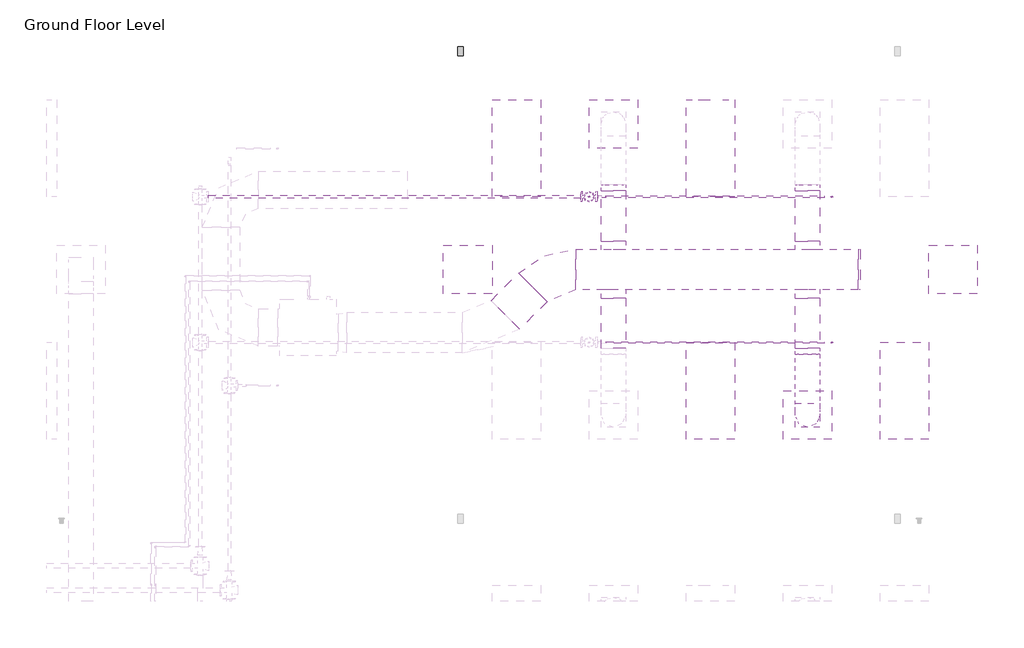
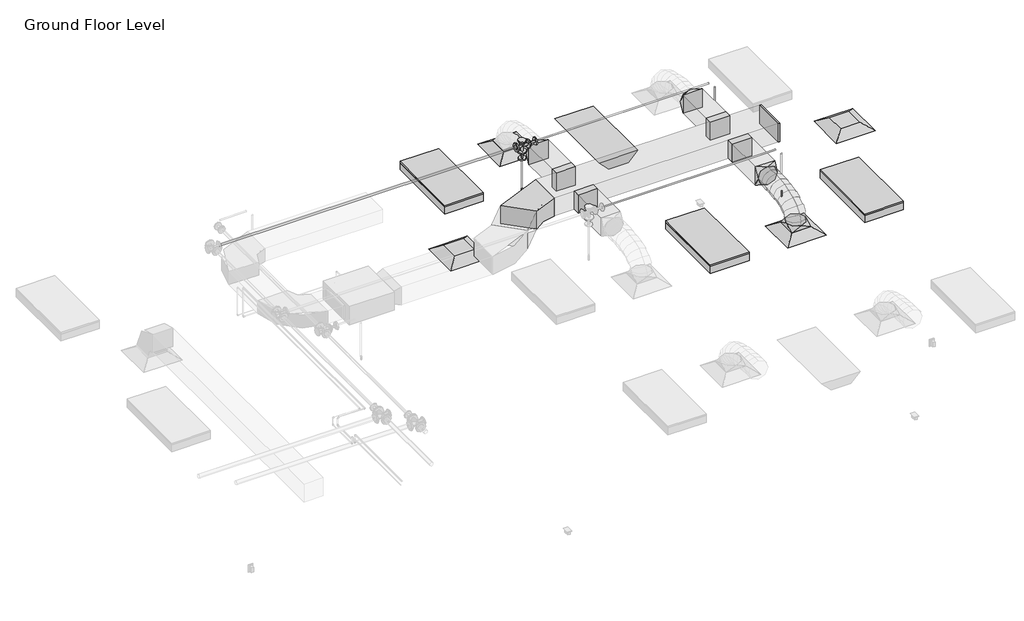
# One storey, part 73 of 74: 10 duct fittings, 7 duct segments, 6 pipe segments, 4 air terminals, 4 light fixtures, 3 fire suppression terminals, 3 pipe fittings, 1 proxy.
"""IFC4 building model written with IfcOpenShell, lengths in millimetres."""

from ifc_helpers import new_model, si_unit, point, frame, frame_2d, origin, place, context, project, spatial, polyline, circle_curve, ellipse_curve, trimmed, segment, composite_curve, outline, extrude, transform, mapped, element, save
from ifc_brep_helpers import plane_surface, cylinder_surface, advanced_brep
from components import m_return_diffuser_600_x_600_face_300_x_300_connection_ff221211, m_duplex_receptacle_standard_10251bba, m_rectangular_elbow_radius_1_5_w_acc56c25, m_rectangular_endcap_standard_72d4d00d, m_rectangular_takeoff_standard_cb0ccb98, m_rectangular_takeoff_standard_2be5eba1, m_rectangular_to_round_transition_angle_45_degree_641efff0, m_sprinkler_dry_pendent_hosted_15_mm_dry_pendent_9bda8e11, m_emergency_recessed_lighting_fixture_600x1200_277_5b10b25d, m_troffer_light_parabolic_rectangular1_0600x1200mm_4_lamp_86473d4a, m_reducer_flanged_cs_class_150_standard_ccf252ad, m_tee_round_base_flanged_cs_class_150_standard_7e5987a1

model = new_model("IFC4")

# Units and contexts
model_context = context("Model", 3, world=origin())
ifc_project = project(units=[si_unit("LENGTHUNIT", "METRE", prefix="MILLI")], contexts=[model_context])

# Site, building, storey
site = spatial("IfcSite", under=ifc_project)
building = spatial("IfcBuilding", under=site)
storey = spatial("IfcBuildingStorey", under=building, Name="Ground Floor Level", Elevation=900.0)

# Air terminals
placement = place(None, origin())
m_return_diffuser_600_x_600_face_300_x_300_connection_shape = m_return_diffuser_600_x_600_face_300_x_300_connection_ff221211(model_context)
element("IfcAirTerminal", 1, ObjectType="M_Return Diffuser : 600 x 600 Face 300 x 300 Connection", at=placement, inside=storey, context=model_context, shape_type="MappedRepresentation", body=[
    mapped(m_return_diffuser_600_x_600_face_300_x_300_connection_shape, transform((8942.7672395, 18735.2153534, 3650.0), x_axis=(1.0, 0.0, 0.0), y_axis=(0.0, 1.0, 0.0), z_axis=(0.0, 0.0, 1.0))),
])
element("IfcAirTerminal", 2, ObjectType="M_Return Diffuser : 600 x 600 Face 300 x 300 Connection", at=placement, inside=storey, context=model_context, shape_type="MappedRepresentation", body=[
    mapped(m_return_diffuser_600_x_600_face_300_x_300_connection_shape, transform((14942.7672395, 18735.2153534, 3650.0), x_axis=(1.0, 0.0, 0.0), y_axis=(0.0, 1.0, 0.0), z_axis=(0.0, 0.0, 1.0))),
])
element("IfcAirTerminal", 3, ObjectType="M_Supply Diffuser : 600 x 600 Face 300 x 300 Connection", at=placement, inside=storey, context=model_context, shape_type="MappedRepresentation", body=[
    mapped(m_return_diffuser_600_x_600_face_300_x_300_connection_shape, transform((10742.7672395, 20535.2153534, 3650.0), x_axis=(1.0, 0.0, 0.0), y_axis=(0.0, 1.0, 0.0), z_axis=(0.0, 0.0, 1.0))),
])
element("IfcAirTerminal", 4, ObjectType="M_Supply Diffuser : 600 x 600 Face 300 x 300 Connection", at=placement, inside=storey, context=model_context, shape_type="MappedRepresentation", body=[
    mapped(m_return_diffuser_600_x_600_face_300_x_300_connection_shape, transform((13142.7672395, 16935.2153534, 3650.0), x_axis=(1.0, 0.0, 0.0), y_axis=(0.0, 1.0, 0.0), z_axis=(0.0, 0.0, 1.0))),
])

# Proxy
m_duplex_receptacle_standard_shape = m_duplex_receptacle_standard_10251bba(model_context)
element("IfcBuildingElementProxy", 5, Name="M_Duplex Receptacle : Standard", ObjectType="M_Duplex Receptacle : Standard", at=placement, inside=storey, context=model_context, shape_type="MappedRepresentation", body=[
    mapped(m_duplex_receptacle_standard_shape, transform((8852.7672395, 21435.2153534, 1000.0), x_axis=(-1.0, 0.0, 0.0), y_axis=(0.0, -1.0, 0.0), z_axis=(0.0, 0.0, 1.0))),
])

# Duct fittings
m_rectangular_elbow_radius_1_5_w_shape = m_rectangular_elbow_radius_1_5_w_acc56c25(model_context)
element("IfcDuctFitting", 6, ObjectType="M_Rectangular Elbow - Radius : 1.5 W", at=placement, inside=storey, context=model_context, shape_type="MappedRepresentation", body=[
    mapped(m_rectangular_elbow_radius_1_5_w_shape, transform((9966.7301365, 18735.2153534, 4100.0), x_axis=(-1.0, 0.0, 0.0), y_axis=(0.0, -0.9999999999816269, 6.061864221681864e-06), z_axis=(0.0, 6.061864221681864e-06, 0.9999999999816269))),
])
m_rectangular_endcap_standard_shape = m_rectangular_endcap_standard_72d4d00d(model_context)
element("IfcDuctFitting", 7, ObjectType="M_Rectangular Endcap : Standard", at=placement, inside=storey, context=model_context, shape_type="MappedRepresentation", body=[
    mapped(m_rectangular_endcap_standard_shape, transform((13766.7301365, 18735.2153534, 4100.0), x_axis=(1.0, 0.0, 0.0), y_axis=(0.0, 1.0, 0.0), z_axis=(0.0, 0.0, 1.0))),
])
m_rectangular_takeoff_standard_shape = m_rectangular_takeoff_standard_cb0ccb98(model_context)
element("IfcDuctFitting", 8, ObjectType="M_Rectangular Takeoff : Standard", at=placement, inside=storey, context=model_context, shape_type="MappedRepresentation", body=[
    mapped(m_rectangular_takeoff_standard_shape, transform((10742.7672395, 18985.2153534, 4100.0), x_axis=(0.0, 1.0, 0.0), y_axis=(1.0, 0.0, 0.0), z_axis=(0.0, 0.0, -1.0))),
])
element("IfcDuctFitting", 9, ObjectType="M_Rectangular Takeoff : Standard", at=placement, inside=storey, context=model_context, shape_type="MappedRepresentation", body=[
    mapped(m_rectangular_takeoff_standard_shape, transform((13142.7672395, 18985.2153534, 4100.0), x_axis=(0.0, 1.0, 0.0), y_axis=(1.0, 0.0, 0.0), z_axis=(0.0, 0.0, -1.0))),
])
m_rectangular_takeoff_standard_2_shape = m_rectangular_takeoff_standard_2be5eba1(model_context)
element("IfcDuctFitting", 10, ObjectType="M_Rectangular Takeoff : Standard", at=placement, inside=storey, context=model_context, shape_type="MappedRepresentation", body=[
    mapped(m_rectangular_takeoff_standard_2_shape, transform((13142.7672395, 18485.2153534, 4100.0), x_axis=(0.0, -1.0, 0.0), y_axis=(-1.0, 0.0, 0.0), z_axis=(0.0, 0.0, -1.0))),
])
element("IfcDuctFitting", 11, ObjectType="M_Rectangular Takeoff : Standard", at=placement, inside=storey, context=model_context, shape_type="MappedRepresentation", body=[
    mapped(m_rectangular_takeoff_standard_2_shape, transform((10742.7672395, 18485.2153534, 4100.0), x_axis=(0.0, -1.0, 0.0), y_axis=(-1.0, 0.0, 0.0), z_axis=(0.0, 0.0, -1.0))),
])
m_rectangular_to_round_transition_angle_45_degree_shape = m_rectangular_to_round_transition_angle_45_degree_641efff0(model_context)
element("IfcDuctFitting", 12, ObjectType="M_Rectangular to Round Transition - Angle : 45 Degree", at=placement, inside=storey, context=model_context, shape_type="MappedRepresentation", body=[
    mapped(m_rectangular_to_round_transition_angle_45_degree_shape, transform((10742.7672395, 19707.8794221, 4100.0), x_axis=(0.0, 1.0, 0.0), y_axis=(-1.0, 0.0, 0.0), z_axis=(0.0, 0.0, 1.0))),
])
element("IfcDuctFitting", 13, ObjectType="M_Rectangular to Round Transition - Angle : 45 Degree", at=placement, inside=storey, context=model_context, shape_type="MappedRepresentation", body=[
    mapped(m_rectangular_to_round_transition_angle_45_degree_shape, transform((13142.7672395, 19707.8794221, 4100.0), x_axis=(0.0, 1.0, 0.0), y_axis=(-1.0, 0.0, 0.0), z_axis=(0.0, 0.0, 1.0))),
])
element("IfcDuctFitting", 14, ObjectType="M_Rectangular to Round Transition - Angle : 45 Degree", at=placement, inside=storey, context=model_context, shape_type="MappedRepresentation", body=[
    mapped(m_rectangular_to_round_transition_angle_45_degree_shape, transform((13142.7672395, 16935.2153534, 3751.6), x_axis=(0.0, 0.0, 1.0), y_axis=(-1.0, 0.0, 0.0), z_axis=(0.0, -1.0, 0.0))),
])
element("IfcDuctFitting", 15, ObjectType="M_Rectangular to Round Transition - Angle : 45 Degree", at=placement, inside=storey, context=model_context, shape_type="MappedRepresentation", body=[
    mapped(m_rectangular_to_round_transition_angle_45_degree_shape, transform((13142.7672395, 17762.5512847, 4100.0), x_axis=(0.0, -1.0, 0.0), y_axis=(1.0, 0.0, 0.0), z_axis=(0.0, 0.0, 1.0))),
])

# Duct segments
element("IfcDuctSegment", 16, ObjectType="Flex - Round", at=placement, inside=storey, context=model_context, shape_type="AdvancedBrep", body=[
    advanced_brep(
    [(13292.7672395, 16935.2153534, 3826.6), (13142.7672395, 16785.2153534, 3826.6), (12992.7672395, 16935.2153534, 3826.6), (13142.7672395, 17085.2153534, 3826.6), (13292.7672395, 16935.2153534, 3857.9377114), (13142.7672395, 16785.2153534, 3883.5809337), (12992.7672395, 16935.2153534, 3857.9377114), (13142.7672395, 17085.2153534, 3832.2944892), (13292.7672395, 16952.2312859, 3906.2505728), (13142.7672395, 16818.493307, 3978.0660967), (12992.7672395, 16952.2312859, 3906.2505728), (13142.7672395, 17085.9692649, 3834.435049), (13292.7672395, 16999.4151663, 3968.7113131), (13142.7672395, 16895.209267, 4079.6206026), (12992.7672395, 16999.4151663, 3968.7113131), (13142.7672395, 17103.6210655, 3857.8020236), (13292.7672395, 17070.9711184, 4016.0700639), (13142.7672395, 17002.0370628, 4150.3237489), (12992.7672395, 17070.9711184, 4016.0700639), (13142.7672395, 17139.9051741, 3881.8163788), (13292.7672395, 17161.1032664, 4050.4146682), (13142.7672395, 17117.5425033, 4194.3367758), (12992.7672395, 17161.1032664, 4050.4146682), (13142.7672395, 17204.6640296, 3906.4925606), (13292.7672395, 17264.0157343, 4073.8329691), (13142.7672395, 17237.4548103, 4221.6234841), (12992.7672395, 17264.0157343, 4073.8329691), (13142.7672395, 17290.5766583, 3926.0424542), (13292.7672395, 17373.912646, 4088.4128097), (13142.7672395, 17358.7617437, 4237.7170733), (12992.7672395, 17373.912646, 4088.4128097), (13142.7672395, 17389.0635483, 3939.1085462), (13292.7672395, 17484.9981256, 4096.242033), (13142.7672395, 17477.4927975, 4246.085151), (12992.7672395, 17484.9981256, 4096.242033), (13142.7672395, 17492.5034538, 3946.398915), (13292.7672395, 17591.4762972, 4099.4084821), (13142.7672395, 17588.7848041, 4249.394754), (12992.7672395, 17591.4762972, 4099.4084821), (13142.7672395, 17594.1677903, 3949.4222102), (13292.7672395, 17687.5512847, 4100.0), (13142.7672395, 17688.4747925, 3950.0028429), (12992.7672395, 17687.5512847, 4100.0), (13142.7672395, 17686.6277768, 4249.9971571)],
    [
        (0, 1, circle_curve(frame((13142.7672395, 16935.2153534, 3826.6), z_axis=(0.0, 0.0, -1.0), x_axis=(1.0, 0.0, 0.0)), 150.0)),
        (1, 2, circle_curve(frame((13142.7672395, 16935.2153534, 3826.6), z_axis=(0.0, 0.0, -1.0), x_axis=(1.0, 0.0, 0.0)), 150.0)),
        (2, 3, circle_curve(frame((13142.7672395, 16935.2153534, 3826.6), z_axis=(0.0, 0.0, -1.0), x_axis=(1.0, 0.0, 0.0)), 150.0)),
        (3, 0, circle_curve(frame((13142.7672395, 16935.2153534, 3826.6), z_axis=(0.0, 0.0, -1.0), x_axis=(1.0, 0.0, 0.0)), 150.0)),
        (0, 4),
        (4, 5, ellipse_curve(frame((13142.7672395, 16935.2153534, 3857.9377114), z_axis=(0.0, -0.16851014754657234, -0.9856999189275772), x_axis=(0.0, 0.9856999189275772, -0.1685101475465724)), 152.176131, 150.0)),
        (5, 1),
        (5, 6, ellipse_curve(frame((13142.7672395, 16935.2153534, 3857.9377114), z_axis=(0.0, -0.16851014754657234, -0.9856999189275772), x_axis=(0.0, 0.9856999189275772, -0.1685101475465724)), 152.176131, 150.0)),
        (6, 2),
        (6, 7, ellipse_curve(frame((13142.7672395, 16935.2153534, 3857.9377114), z_axis=(0.0, -0.16851014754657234, -0.9856999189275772), x_axis=(0.0, 0.9856999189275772, -0.1685101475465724)), 152.176131, 150.0)),
        (7, 3),
        (7, 4, ellipse_curve(frame((13142.7672395, 16935.2153534, 3857.9377114), z_axis=(0.0, -0.16851014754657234, -0.9856999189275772), x_axis=(0.0, 0.9856999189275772, -0.1685101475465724)), 152.176131, 150.0)),
        (4, 8),
        (8, 9, ellipse_curve(frame((13142.7672395, 16952.2312859, 3906.2505728), z_axis=(0.0, -0.4730922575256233, -0.8810128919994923), x_axis=(0.0, 0.8810128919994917, -0.47309225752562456)), 151.8002519, 150.0)),
        (9, 5),
        (9, 10, ellipse_curve(frame((13142.7672395, 16952.2312859, 3906.2505728), z_axis=(0.0, -0.4730922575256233, -0.8810128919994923), x_axis=(0.0, 0.8810128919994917, -0.47309225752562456)), 151.8002519, 150.0)),
        (10, 6),
        (10, 11, ellipse_curve(frame((13142.7672395, 16952.2312859, 3906.2505728), z_axis=(0.0, -0.4730922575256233, -0.8810128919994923), x_axis=(0.0, 0.8810128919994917, -0.47309225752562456)), 151.8002519, 150.0)),
        (11, 7),
        (11, 8, ellipse_curve(frame((13142.7672395, 16952.2312859, 3906.2505728), z_axis=(0.0, -0.4730922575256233, -0.8810128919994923), x_axis=(0.0, 0.8810128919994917, -0.47309225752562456)), 151.8002519, 150.0)),
        (8, 12),
        (12, 13, ellipse_curve(frame((13142.7672395, 16999.4151663, 3968.7113131), z_axis=(0.0, -0.7287877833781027, -0.684739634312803), x_axis=(0.0, 0.6847396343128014, -0.7287877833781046)), 152.1832446, 150.0)),
        (13, 9),
        (13, 14, ellipse_curve(frame((13142.7672395, 16999.4151663, 3968.7113131), z_axis=(0.0, -0.7287877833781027, -0.684739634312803), x_axis=(0.0, 0.6847396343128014, -0.7287877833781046)), 152.1832446, 150.0)),
        (14, 10),
        (14, 15, ellipse_curve(frame((13142.7672395, 16999.4151663, 3968.7113131), z_axis=(0.0, -0.7287877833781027, -0.684739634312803), x_axis=(0.0, 0.6847396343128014, -0.7287877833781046)), 152.1832446, 150.0)),
        (15, 11),
        (15, 12, ellipse_curve(frame((13142.7672395, 16999.4151663, 3968.7113131), z_axis=(0.0, -0.7287877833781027, -0.684739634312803), x_axis=(0.0, 0.6847396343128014, -0.7287877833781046)), 152.1832446, 150.0)),
        (12, 16),
        (16, 17, ellipse_curve(frame((13142.7672395, 17070.9711184, 4016.0700639), z_axis=(0.0, -0.8895859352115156, -0.45676784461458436), x_axis=(0.0, 0.45676784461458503, -0.8895859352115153)), 150.91705, 150.0)),
        (17, 13),
        (17, 18, ellipse_curve(frame((13142.7672395, 17070.9711184, 4016.0700639), z_axis=(0.0, -0.8895859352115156, -0.45676784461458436), x_axis=(0.0, 0.45676784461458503, -0.8895859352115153)), 150.91705, 150.0)),
        (18, 14),
        (18, 19, ellipse_curve(frame((13142.7672395, 17070.9711184, 4016.0700639), z_axis=(0.0, -0.8895859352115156, -0.45676784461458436), x_axis=(0.0, 0.45676784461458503, -0.8895859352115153)), 150.91705, 150.0)),
        (19, 15),
        (19, 16, ellipse_curve(frame((13142.7672395, 17070.9711184, 4016.0700639), z_axis=(0.0, -0.8895859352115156, -0.45676784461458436), x_axis=(0.0, 0.45676784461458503, -0.8895859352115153)), 150.91705, 150.0)),
        (16, 20),
        (20, 21, ellipse_curve(frame((13142.7672395, 17161.1032664, 4050.4146682), z_axis=(0.0, -0.9571203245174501, -0.2896906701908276), x_axis=(0.0, 0.28969067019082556, -0.9571203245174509)), 150.369921, 150.0)),
        (21, 17),
        (21, 22, ellipse_curve(frame((13142.7672395, 17161.1032664, 4050.4146682), z_axis=(0.0, -0.9571203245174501, -0.2896906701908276), x_axis=(0.0, 0.28969067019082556, -0.9571203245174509)), 150.369921, 150.0)),
        (22, 18),
        (22, 23, ellipse_curve(frame((13142.7672395, 17161.1032664, 4050.4146682), z_axis=(0.0, -0.9571203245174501, -0.2896906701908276), x_axis=(0.0, 0.28969067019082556, -0.9571203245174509)), 150.369921, 150.0)),
        (23, 19),
        (23, 20, ellipse_curve(frame((13142.7672395, 17161.1032664, 4050.4146682), z_axis=(0.0, -0.9571203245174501, -0.2896906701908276), x_axis=(0.0, 0.28969067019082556, -0.9571203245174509)), 150.369921, 150.0)),
        (20, 24),
        (24, 25, ellipse_curve(frame((13142.7672395, 17264.0157343, 4073.8329691), z_axis=(0.0, -0.9842313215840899, -0.176886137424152), x_axis=(0.0, 0.17688613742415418, -0.9842313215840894)), 150.1583131, 150.0)),
        (25, 21),
        (25, 26, ellipse_curve(frame((13142.7672395, 17264.0157343, 4073.8329691), z_axis=(0.0, -0.9842313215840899, -0.176886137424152), x_axis=(0.0, 0.17688613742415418, -0.9842313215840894)), 150.1583131, 150.0)),
        (26, 22),
        (26, 27, ellipse_curve(frame((13142.7672395, 17264.0157343, 4073.8329691), z_axis=(0.0, -0.9842313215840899, -0.176886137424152), x_axis=(0.0, 0.17688613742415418, -0.9842313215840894)), 150.1583131, 150.0)),
        (27, 23),
        (27, 24, ellipse_curve(frame((13142.7672395, 17264.0157343, 4073.8329691), z_axis=(0.0, -0.9842313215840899, -0.176886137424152), x_axis=(0.0, 0.17688613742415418, -0.9842313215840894)), 150.1583131, 150.0)),
        (24, 28),
        (28, 29, ellipse_curve(frame((13142.7672395, 17373.912646, 4088.4128097), z_axis=(0.0, -0.9948906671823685, -0.10095821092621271), x_axis=(0.0, 0.10095821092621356, -0.9948906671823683)), 150.0710264, 150.0)),
        (29, 25),
        (29, 30, ellipse_curve(frame((13142.7672395, 17373.912646, 4088.4128097), z_axis=(0.0, -0.9948906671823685, -0.10095821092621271), x_axis=(0.0, 0.10095821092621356, -0.9948906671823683)), 150.0710264, 150.0)),
        (30, 26),
        (30, 31, ellipse_curve(frame((13142.7672395, 17373.912646, 4088.4128097), z_axis=(0.0, -0.9948906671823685, -0.10095821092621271), x_axis=(0.0, 0.10095821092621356, -0.9948906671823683)), 150.0710264, 150.0)),
        (31, 27),
        (31, 28, ellipse_curve(frame((13142.7672395, 17373.912646, 4088.4128097), z_axis=(0.0, -0.9948906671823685, -0.10095821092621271), x_axis=(0.0, 0.10095821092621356, -0.9948906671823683)), 150.0710264, 150.0)),
        (28, 32),
        (32, 33, ellipse_curve(frame((13142.7672395, 17484.9981256, 4096.242033), z_axis=(0.0, -0.9987479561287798, -0.050025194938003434), x_axis=(0.0, 0.05002519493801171, -0.9987479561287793)), 150.0309634, 150.0)),
        (33, 29),
        (33, 34, ellipse_curve(frame((13142.7672395, 17484.9981256, 4096.242033), z_axis=(0.0, -0.9987479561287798, -0.050025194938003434), x_axis=(0.0, 0.05002519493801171, -0.9987479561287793)), 150.0309634, 150.0)),
        (34, 30),
        (34, 35, ellipse_curve(frame((13142.7672395, 17484.9981256, 4096.242033), z_axis=(0.0, -0.9987479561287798, -0.050025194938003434), x_axis=(0.0, 0.05002519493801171, -0.9987479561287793)), 150.0309634, 150.0)),
        (35, 31),
        (35, 32, ellipse_curve(frame((13142.7672395, 17484.9981256, 4096.242033), z_axis=(0.0, -0.9987479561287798, -0.050025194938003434), x_axis=(0.0, 0.05002519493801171, -0.9987479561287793)), 150.0309634, 150.0)),
        (32, 36),
        (36, 37, ellipse_curve(frame((13142.7672395, 17591.4762972, 4099.4084821), z_axis=(0.0, -0.9998390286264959, -0.01794204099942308), x_axis=(0.0, 0.017942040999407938, -0.9998390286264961)), 150.0104193, 150.0)),
        (37, 33),
        (37, 38, ellipse_curve(frame((13142.7672395, 17591.4762972, 4099.4084821), z_axis=(0.0, -0.9998390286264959, -0.01794204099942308), x_axis=(0.0, 0.017942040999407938, -0.9998390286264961)), 150.0104193, 150.0)),
        (38, 34),
        (38, 39, ellipse_curve(frame((13142.7672395, 17591.4762972, 4099.4084821), z_axis=(0.0, -0.9998390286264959, -0.01794204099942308), x_axis=(0.0, 0.017942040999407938, -0.9998390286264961)), 150.0104193, 150.0)),
        (39, 35),
        (39, 36, ellipse_curve(frame((13142.7672395, 17591.4762972, 4099.4084821), z_axis=(0.0, -0.9998390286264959, -0.01794204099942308), x_axis=(0.0, 0.017942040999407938, -0.9998390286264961)), 150.0104193, 150.0)),
        (40, 41, circle_curve(frame((13142.7672395, 17687.5512847, 4100.0), z_axis=(0.0, 0.9999810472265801, 0.006156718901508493), x_axis=(1.0, 0.0, 0.0)), 150.0)),
        (41, 42, circle_curve(frame((13142.7672395, 17687.5512847, 4100.0), z_axis=(0.0, 0.9999810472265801, 0.006156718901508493), x_axis=(1.0, 0.0, 0.0)), 150.0)),
        (42, 43, circle_curve(frame((13142.7672395, 17687.5512847, 4100.0), z_axis=(0.0, 0.9999810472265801, 0.006156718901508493), x_axis=(1.0, 0.0, 0.0)), 150.0)),
        (43, 40, circle_curve(frame((13142.7672395, 17687.5512847, 4100.0), z_axis=(0.0, 0.9999810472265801, 0.006156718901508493), x_axis=(1.0, 0.0, 0.0)), 150.0)),
        (36, 40),
        (43, 37),
        (42, 38),
        (41, 39),
    ],
    [
        plane_surface(frame((13142.7672395, 16785.2153534, 3826.6), z_axis=(0.0, 0.0, -1.0), x_axis=(1.0, 0.0, 0.0))),
        cylinder_surface(frame((13142.7672395, 16935.2153534, 3826.6), z_axis=(0.0, 0.0, -1.0), x_axis=(1.0, 0.0, 0.0)), 150.0),
        cylinder_surface(frame((13142.7672395, 16935.2153534, 3857.9377114), z_axis=(0.0, -0.3322008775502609, -0.9432086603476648), x_axis=(1.0, 0.0, 0.0)), 150.0),
        cylinder_surface(frame((13142.7672395, 16952.2312859, 3906.2505728), z_axis=(0.0, -0.6027625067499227, -0.7979206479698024), x_axis=(1.0, 0.0, 0.0)), 150.0),
        cylinder_surface(frame((13142.7672395, 16999.4151663, 3968.7113131), z_axis=(0.0, -0.8339024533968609, -0.5519118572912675), x_axis=(1.0, 0.0, 0.0)), 150.0),
        cylinder_surface(frame((13142.7672395, 17070.9711184, 4016.0700639), z_axis=(0.0, -0.9344582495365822, -0.35607271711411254), x_axis=(1.0, 0.0, 0.0)), 150.0),
        cylinder_surface(frame((13142.7672395, 17161.1032664, 4050.4146682), z_axis=(0.0, -0.9750732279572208, -0.22188330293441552), x_axis=(1.0, 0.0, 0.0)), 150.0),
        cylinder_surface(frame((13142.7672395, 17264.0157343, 4073.8329691), z_axis=(0.0, -0.9913140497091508, -0.13151598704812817), x_axis=(1.0, 0.0, 0.0)), 150.0),
        cylinder_surface(frame((13142.7672395, 17373.912646, 4088.4128097), z_axis=(0.0, -0.9975255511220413, -0.07030487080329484), x_axis=(1.0, 0.0, 0.0)), 150.0),
        cylinder_surface(frame((13142.7672395, 17484.9981256, 4096.242033), z_axis=(0.0, -0.9995581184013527, -0.029724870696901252), x_axis=(1.0, 0.0, 0.0)), 150.0),
        plane_surface(frame((13142.7672395, 17686.6277768, 4249.9971571), z_axis=(0.0, 0.9999810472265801, 0.0061567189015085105), x_axis=(1.0, 0.0, 0.0))),
        cylinder_surface(frame((13142.7672395, 17591.4762972, 4099.4084821), z_axis=(0.0, -0.9999810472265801, -0.006156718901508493), x_axis=(1.0, 0.0, 0.0)), 150.0),
    ],
    [
        (0, [[1, 2, 3, 4]]),
        (1, [[-1, 5, 6, 7]]),
        (1, [[-2, -7, 8, 9]]),
        (1, [[-3, -9, 10, 11]]),
        (1, [[-4, -11, 12, -5]]),
        (2, [[-6, 13, 14, 15]]),
        (2, [[-8, -15, 16, 17]]),
        (2, [[-10, -17, 18, 19]]),
        (2, [[-12, -19, 20, -13]]),
        (3, [[-14, 21, 22, 23]]),
        (3, [[-16, -23, 24, 25]]),
        (3, [[-18, -25, 26, 27]]),
        (3, [[-20, -27, 28, -21]]),
        (4, [[-22, 29, 30, 31]]),
        (4, [[-24, -31, 32, 33]]),
        (4, [[-26, -33, 34, 35]]),
        (4, [[-28, -35, 36, -29]]),
        (5, [[-30, 37, 38, 39]]),
        (5, [[-32, -39, 40, 41]]),
        (5, [[-34, -41, 42, 43]]),
        (5, [[-36, -43, 44, -37]]),
        (6, [[-38, 45, 46, 47]]),
        (6, [[-40, -47, 48, 49]]),
        (6, [[-42, -49, 50, 51]]),
        (6, [[-44, -51, 52, -45]]),
        (7, [[-46, 53, 54, 55]]),
        (7, [[-48, -55, 56, 57]]),
        (7, [[-50, -57, 58, 59]]),
        (7, [[-52, -59, 60, -53]]),
        (8, [[-54, 61, 62, 63]]),
        (8, [[-56, -63, 64, 65]]),
        (8, [[-58, -65, 66, 67]]),
        (8, [[-60, -67, 68, -61]]),
        (9, [[-62, 69, 70, 71]]),
        (9, [[-64, -71, 72, 73]]),
        (9, [[-66, -73, 74, 75]]),
        (9, [[-68, -75, 76, -69]]),
        (10, [[77, 78, 79, 80]]),
        (11, [[-70, 81, -80, 82]]),
        (11, [[-72, -82, -79, 83]]),
        (11, [[-74, -83, -78, 84]]),
        (11, [[-76, -84, -77, -81]]),
    ],
),
])
element("IfcDuctSegment", 17, ObjectType="Radius Elbows / Taps", at=placement, inside=storey, context=model_context, shape_type="SweptSolid", body=[
    extrude(outline(polyline([(9584.1393452, 17999.0711715), (9230.5859546, 18352.6245621), (9570.2835271, 18692.3221346), (9923.8369177, 18338.768744), (9584.1393452, 17999.0711715)])), frame((0.0, 0.0, 3950.0033908), z_axis=(0.0, 0.0, 1.0), x_axis=(1.0, 0.0, 0.0)), (0.0, 0.0, 1.0), 300.0),
])
element("IfcDuctSegment", 18, ObjectType="Radius Elbows / Taps", at=placement, inside=storey, context=model_context, shape_type="SweptSolid", body=[
    extrude(outline(polyline([(10277.3903083, 18485.2153534), (10277.3903083, 18985.2153534), (13766.7301365, 18985.2153534), (13766.7301365, 18485.2153534), (10277.3903083, 18485.2153534)])), frame((0.0, 0.0, 3950.0), z_axis=(0.0, 0.0, 1.0), x_axis=(1.0, 0.0, 0.0)), (0.0, 0.0, 1.0), 300.0),
])
element("IfcDuctSegment", 19, ObjectType="Radius Elbows / Taps", at=placement, inside=storey, context=model_context, shape_type="SweptSolid", body=[
    extrude(outline(polyline([(10892.7672395, 19086.8153534), (10592.7672395, 19086.8153534), (10592.7672395, 19707.8794221), (10892.7672395, 19707.8794221), (10892.7672395, 19086.8153534)])), frame((0.0, 0.0, 3950.0), z_axis=(0.0, 0.0, 1.0), x_axis=(1.0, 0.0, 0.0)), (0.0, 0.0, 1.0), 300.0),
])
element("IfcDuctSegment", 20, ObjectType="Radius Elbows / Taps", at=placement, inside=storey, context=model_context, shape_type="SweptSolid", body=[
    extrude(outline(polyline([(13292.7672395, 19086.8153534), (12992.7672395, 19086.8153534), (12992.7672395, 19707.8794221), (13292.7672395, 19707.8794221), (13292.7672395, 19086.8153534)])), frame((0.0, 0.0, 3950.0), z_axis=(0.0, 0.0, 1.0), x_axis=(1.0, 0.0, 0.0)), (0.0, 0.0, 1.0), 300.0),
])
element("IfcDuctSegment", 21, ObjectType="Radius Elbows / Taps", at=placement, inside=storey, context=model_context, shape_type="SweptSolid", body=[
    extrude(outline(polyline([(12992.7672395, 18383.6153534), (13292.7672395, 18383.6153534), (13292.7672395, 17762.5512847), (12992.7672395, 17762.5512847), (12992.7672395, 18383.6153534)])), frame((0.0, 0.0, 3950.0), z_axis=(0.0, 0.0, 1.0), x_axis=(1.0, 0.0, 0.0)), (0.0, 0.0, 1.0), 300.0),
])
element("IfcDuctSegment", 22, ObjectType="Radius Elbows / Taps", at=placement, inside=storey, context=model_context, shape_type="SweptSolid", body=[
    extrude(outline(polyline([(10592.7672395, 18383.6153534), (10892.7672395, 18383.6153534), (10892.7672395, 17762.5512847), (10592.7672395, 17762.5512847), (10592.7672395, 18383.6153534)])), frame((0.0, 0.0, 3950.0), z_axis=(0.0, 0.0, 1.0), x_axis=(1.0, 0.0, 0.0)), (0.0, 0.0, 1.0), 300.0),
])

# Fire suppression terminals
m_sprinkler_dry_pendent_hosted_15_mm_dry_pendent_shape = m_sprinkler_dry_pendent_hosted_15_mm_dry_pendent_9bda8e11(model_context)
element("IfcFireSuppressionTerminal", 23, ObjectType="M_Sprinkler - Dry - Pendent - Hosted : 15 mm Dry Pendent", at=placement, inside=storey, context=model_context, shape_type="MappedRepresentation", body=[
    mapped(m_sprinkler_dry_pendent_hosted_15_mm_dry_pendent_shape, transform((10442.7672395, 19635.2153534, 3650.0), x_axis=(1.0, 0.0, 0.0), y_axis=(0.0, -1.0, 0.0), z_axis=(0.0, 0.0, -1.0))),
])
element("IfcFireSuppressionTerminal", 24, ObjectType="M_Sprinkler - Dry - Pendent - Hosted : 15 mm Dry Pendent", at=placement, inside=storey, context=model_context, shape_type="MappedRepresentation", body=[
    mapped(m_sprinkler_dry_pendent_hosted_15_mm_dry_pendent_shape, transform((13442.7672395, 19635.2153534, 3650.0), x_axis=(1.0, 0.0, 0.0), y_axis=(0.0, -1.0, 0.0), z_axis=(0.0, 0.0, -1.0))),
])
element("IfcFireSuppressionTerminal", 25, ObjectType="M_Sprinkler - Dry - Pendent - Hosted : 15 mm Dry Pendent", at=placement, inside=storey, context=model_context, shape_type="MappedRepresentation", body=[
    mapped(m_sprinkler_dry_pendent_hosted_15_mm_dry_pendent_shape, transform((13442.7672395, 17835.2153534, 3650.0), x_axis=(1.0, 0.0, 0.0), y_axis=(0.0, -1.0, 0.0), z_axis=(0.0, 0.0, -1.0))),
])

# Light fixtures
m_emergency_recessed_lighting_fixture_600x1200_277_shape = m_emergency_recessed_lighting_fixture_600x1200_277_5b10b25d(model_context)
element("IfcLightFixture", 26, ObjectType="M_Emergency Recessed Lighting Fixture : 600x1200 - 277", at=placement, inside=storey, context=model_context, shape_type="MappedRepresentation", body=[
    mapped(m_emergency_recessed_lighting_fixture_600x1200_277_shape, transform((11642.7672395, 19635.2153534, 3650.0), x_axis=(0.0, 1.0, 0.0), y_axis=(-1.0, 0.0, 0.0), z_axis=(0.0, 0.0, 1.0))),
])
m_troffer_light_parabolic_rectangular1_0600x1200mm_4_lamp_shape = m_troffer_light_parabolic_rectangular1_0600x1200mm_4_lamp_86473d4a(model_context)
element("IfcLightFixture", 27, ObjectType="M_Troffer Light - Parabolic Rectangular1 : 0600x1200mm(4 Lamp) - 277V 2", at=placement, inside=storey, context=model_context, shape_type="MappedRepresentation", body=[
    mapped(m_troffer_light_parabolic_rectangular1_0600x1200mm_4_lamp_shape, transform((9483.3013074, 20253.918855, 3650.0), x_axis=(0.0, 1.0, 0.0), y_axis=(-1.0, 0.0, 0.0), z_axis=(0.0, 0.0, 1.0))),
])
element("IfcLightFixture", 28, ObjectType="M_Troffer Light - Parabolic Rectangular1 : 0600x1200mm(4 Lamp) - 277V 2", at=placement, inside=storey, context=model_context, shape_type="MappedRepresentation", body=[
    mapped(m_troffer_light_parabolic_rectangular1_0600x1200mm_4_lamp_shape, transform((11883.3013074, 17253.918855, 3650.0), x_axis=(0.0, 1.0, 0.0), y_axis=(-1.0, 0.0, 0.0), z_axis=(0.0, 0.0, 1.0))),
])
element("IfcLightFixture", 29, ObjectType="M_Troffer Light - Parabolic Rectangular1 : 0600x1200mm(4 Lamp) - 277V 2", at=placement, inside=storey, context=model_context, shape_type="MappedRepresentation", body=[
    mapped(m_troffer_light_parabolic_rectangular1_0600x1200mm_4_lamp_shape, transform((14283.3013074, 17253.918855, 3650.0), x_axis=(0.0, 1.0, 0.0), y_axis=(-1.0, 0.0, 0.0), z_axis=(0.0, 0.0, 1.0))),
])

# Pipe fittings
m_reducer_flanged_cs_class_150_standard_shape = m_reducer_flanged_cs_class_150_standard_ccf252ad(model_context)
element("IfcPipeFitting", 30, ObjectType="M_Reducer - Flanged - CS - Class 150 : Standard", at=placement, inside=storey, context=model_context, shape_type="MappedRepresentation", body=[
    mapped(m_reducer_flanged_cs_class_150_standard_shape, transform((10543.4758332, 19635.2153534, 4360.0), x_axis=(1.0, 0.0, 0.0), y_axis=(0.0, 0.0, 1.0), z_axis=(0.0, -1.0, 0.0))),
])
element("IfcPipeFitting", 31, ObjectType="M_Reducer - Flanged - CS - Class 150 : Standard", at=placement, inside=storey, context=model_context, shape_type="MappedRepresentation", body=[
    mapped(m_reducer_flanged_cs_class_150_standard_shape, transform((10442.7672395, 19635.2153534, 4259.2914062), x_axis=(0.0, 0.0, -1.0), y_axis=(-1.0, 0.0, 0.0), z_axis=(0.0, 1.0, 0.0))),
])
m_tee_round_base_flanged_cs_class_150_standard_shape = m_tee_round_base_flanged_cs_class_150_standard_7e5987a1(model_context)
element("IfcPipeFitting", 32, ObjectType="M_Tee Round Base - Flanged - CS - Class 150 : Standard", at=placement, inside=storey, context=model_context, shape_type="MappedRepresentation", body=[
    mapped(m_tee_round_base_flanged_cs_class_150_standard_shape, transform((10442.7672395, 19635.2153534, 4360.0), x_axis=(1.0, 0.0, 0.0), y_axis=(0.0, 0.0, 1.0), z_axis=(0.0, -1.0, 0.0))),
])

# Pipe segments
element("IfcPipeSegment", 33, ObjectType="Steel flanged", at=placement, inside=storey, context=model_context, shape_type="SweptSolid", body=[
    extrude(outline(composite_curve([segment(trimmed(circle_curve(frame_2d((13442.7672395, 19635.2153534)), 10.668), [point((13432.0992395, 19635.2153534))], [point((13442.7672395, 19645.8833534))], False, "CARTESIAN"), True, "CONTINUOUS"), segment(trimmed(circle_curve(frame_2d((13442.7672395, 19635.2153534)), 10.668), [point((13442.7672395, 19645.8833534))], [point((13453.4352395, 19635.2153534))], False, "CARTESIAN"), True, "CONTINUOUS"), segment(trimmed(circle_curve(frame_2d((13442.7672395, 19635.2153534)), 10.668), [point((13453.4352395, 19635.2153534))], [point((13442.7672395, 19624.5473534))], False, "CARTESIAN"), True, "CONTINUOUS"), segment(trimmed(circle_curve(frame_2d((13442.7672395, 19635.2153534)), 10.668), [point((13442.7672395, 19624.5473534))], [point((13432.0992395, 19635.2153534))], False, "CARTESIAN"), True, "CONTINUOUS")], self_intersect=False)), frame((0.0, 0.0, 3650.0), z_axis=(0.0, 0.0, 1.0), x_axis=(1.0, 0.0, 0.0)), (0.0, 0.0, 1.0), 616.9914062),
])
element("IfcPipeSegment", 34, ObjectType="Steel flanged", at=placement, inside=storey, context=model_context, shape_type="SweptSolid", body=[
    extrude(outline(composite_curve([segment(trimmed(circle_curve(frame_2d((13442.7672395, 17835.2153534)), 10.668), [point((13432.0992395, 17835.2153534))], [point((13442.7672395, 17845.8833534))], False, "CARTESIAN"), True, "CONTINUOUS"), segment(trimmed(circle_curve(frame_2d((13442.7672395, 17835.2153534)), 10.668), [point((13442.7672395, 17845.8833534))], [point((13453.4352395, 17835.2153534))], False, "CARTESIAN"), True, "CONTINUOUS"), segment(trimmed(circle_curve(frame_2d((13442.7672395, 17835.2153534)), 10.668), [point((13453.4352395, 17835.2153534))], [point((13442.7672395, 17824.5473534))], False, "CARTESIAN"), True, "CONTINUOUS"), segment(trimmed(circle_curve(frame_2d((13442.7672395, 17835.2153534)), 10.668), [point((13442.7672395, 17824.5473534))], [point((13432.0992395, 17835.2153534))], False, "CARTESIAN"), True, "CONTINUOUS")], self_intersect=False)), frame((0.0, 0.0, 3650.0), z_axis=(0.0, 0.0, 1.0), x_axis=(1.0, 0.0, 0.0)), (0.0, 0.0, 1.0), 616.9914062),
])
element("IfcPipeSegment", 35, ObjectType="Steel flanged", at=placement, inside=storey, context=model_context, shape_type="SweptSolid", body=[
    extrude(outline(composite_curve([segment(trimmed(circle_curve(frame_2d((17835.2153534, 4360.0)), 10.668), [point((17845.8833534, 4360.0))], [point((17835.2153534, 4349.332))], False, "CARTESIAN"), True, "CONTINUOUS"), segment(trimmed(circle_curve(frame_2d((17835.2153534, 4360.0)), 10.668), [point((17835.2153534, 4349.332))], [point((17824.5473534, 4360.0))], False, "CARTESIAN"), True, "CONTINUOUS"), segment(trimmed(circle_curve(frame_2d((17835.2153534, 4360.0)), 10.668), [point((17824.5473534, 4360.0))], [point((17835.2153534, 4370.668))], False, "CARTESIAN"), True, "CONTINUOUS"), segment(trimmed(circle_curve(frame_2d((17835.2153534, 4360.0)), 10.668), [point((17835.2153534, 4370.668))], [point((17845.8833534, 4360.0))], False, "CARTESIAN"), True, "CONTINUOUS")], self_intersect=False)), frame((10657.4758332, 0.0, 0.0), z_axis=(1.0, 0.0, 0.0), x_axis=(0.0, 1.0, 0.0)), (0.0, 0.0, 1.0), 2692.2828125),
])
element("IfcPipeSegment", 36, ObjectType="Steel flanged", at=placement, inside=storey, context=model_context, shape_type="SweptSolid", body=[
    extrude(outline(composite_curve([segment(trimmed(circle_curve(frame_2d((10442.7672395, 19635.2153534)), 10.668), [point((10432.0992395, 19635.2153534))], [point((10442.7672395, 19645.8833534))], False, "CARTESIAN"), True, "CONTINUOUS"), segment(trimmed(circle_curve(frame_2d((10442.7672395, 19635.2153534)), 10.668), [point((10442.7672395, 19645.8833534))], [point((10453.4352395, 19635.2153534))], False, "CARTESIAN"), True, "CONTINUOUS"), segment(trimmed(circle_curve(frame_2d((10442.7672395, 19635.2153534)), 10.668), [point((10453.4352395, 19635.2153534))], [point((10442.7672395, 19624.5473534))], False, "CARTESIAN"), True, "CONTINUOUS"), segment(trimmed(circle_curve(frame_2d((10442.7672395, 19635.2153534)), 10.668), [point((10442.7672395, 19624.5473534))], [point((10432.0992395, 19635.2153534))], False, "CARTESIAN"), True, "CONTINUOUS")], self_intersect=False)), frame((0.0, 0.0, 3650.0), z_axis=(0.0, 0.0, 1.0), x_axis=(1.0, 0.0, 0.0)), (0.0, 0.0, 1.0), 495.2914062),
])
element("IfcPipeSegment", 37, ObjectType="Steel flanged", at=placement, inside=storey, context=model_context, shape_type="SweptSolid", body=[
    extrude(outline(composite_curve([segment(trimmed(circle_curve(frame_2d((19635.2153534, 4360.0)), 16.7005), [point((19651.9158534, 4360.0))], [point((19635.2153534, 4343.2995))], False, "CARTESIAN"), True, "CONTINUOUS"), segment(trimmed(circle_curve(frame_2d((19635.2153534, 4360.0)), 16.7005), [point((19635.2153534, 4343.2995))], [point((19618.5148534, 4360.0))], False, "CARTESIAN"), True, "CONTINUOUS"), segment(trimmed(circle_curve(frame_2d((19635.2153534, 4360.0)), 16.7005), [point((19618.5148534, 4360.0))], [point((19635.2153534, 4376.7005))], False, "CARTESIAN"), True, "CONTINUOUS"), segment(trimmed(circle_curve(frame_2d((19635.2153534, 4360.0)), 16.7005), [point((19635.2153534, 4376.7005))], [point((19651.9158534, 4360.0))], False, "CARTESIAN"), True, "CONTINUOUS")], self_intersect=False)), frame((5736.5780918, 0.0, 0.0), z_axis=(1.0, 0.0, 0.0), x_axis=(0.0, 1.0, 0.0)), (0.0, 0.0, 1.0), 4605.480554),
])
element("IfcPipeSegment", 38, ObjectType="Steel flanged", at=placement, inside=storey, context=model_context, shape_type="SweptSolid", body=[
    extrude(outline(composite_curve([segment(trimmed(circle_curve(frame_2d((19635.2153534, 4360.0)), 10.668), [point((19645.8833534, 4360.0))], [point((19635.2153534, 4349.332))], False, "CARTESIAN"), True, "CONTINUOUS"), segment(trimmed(circle_curve(frame_2d((19635.2153534, 4360.0)), 10.668), [point((19635.2153534, 4349.332))], [point((19624.5473534, 4360.0))], False, "CARTESIAN"), True, "CONTINUOUS"), segment(trimmed(circle_curve(frame_2d((19635.2153534, 4360.0)), 10.668), [point((19624.5473534, 4360.0))], [point((19635.2153534, 4370.668))], False, "CARTESIAN"), True, "CONTINUOUS"), segment(trimmed(circle_curve(frame_2d((19635.2153534, 4360.0)), 10.668), [point((19635.2153534, 4370.668))], [point((19645.8833534, 4360.0))], False, "CARTESIAN"), True, "CONTINUOUS")], self_intersect=False)), frame((10657.4758332, 0.0, 0.0), z_axis=(1.0, 0.0, 0.0), x_axis=(0.0, 1.0, 0.0)), (0.0, 0.0, 1.0), 2692.2828125),
])

save(model, "model.ifc")
